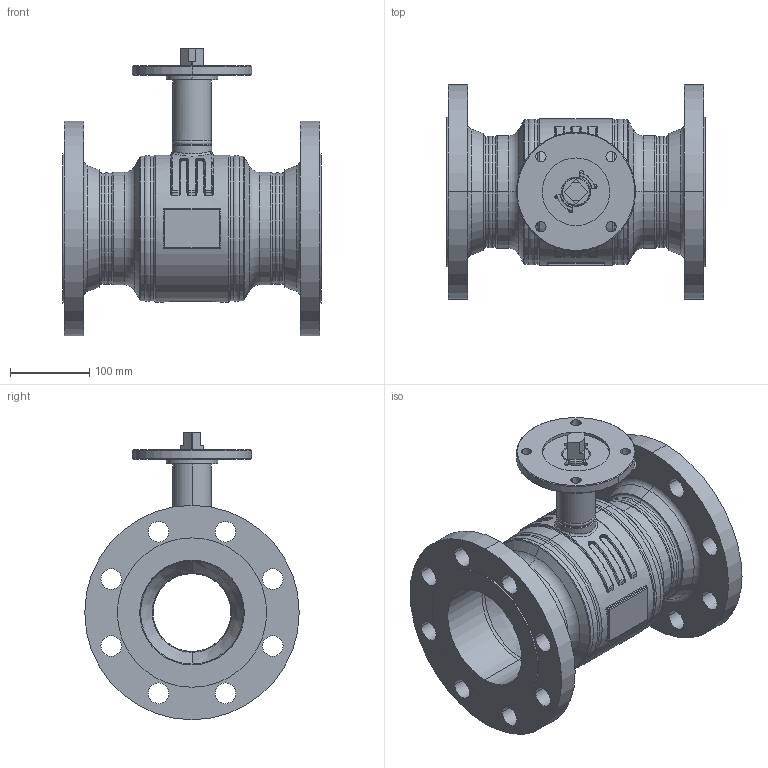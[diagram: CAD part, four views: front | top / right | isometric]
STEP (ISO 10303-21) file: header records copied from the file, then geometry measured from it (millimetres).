
FILE_DESCRIPTION((''),'2;1');
FILE_NAME('KHMO-F-R-H-125R100P04_SW0001','2025-04-23T09:38:29',('jeitlers'),('KLINGER'),'CREO PARAMETRIC BY PTC INC, 2023014','CREO PARAMETRIC BY PTC INC, 2023014','');
FILE_SCHEMA(('CONFIG_CONTROL_DESIGN'));
Length unit declared in the file: millimetre
Products named in the file (1): KHMO-F-R-H-125R100P04_SW0001
Bounding box: 325 x 270 x 362 mm (x, y, z)
Volume: 4430599.7 mm3; surface area: 843992.3 mm2
Topology: 2 solids, 2 shells, 604 faces, 1451 edges, 866 vertices
Faces by surface type: cylinder 230, torus 124, plane 108, cone 82, bspline 52, sphere 8
Entity records: 29838 total; most frequent: CARTESIAN_POINT 15624, DIRECTION 3167, ORIENTED_EDGE 2886, EDGE_CURVE 1443, AXIS2_PLACEMENT_3D 1346, VERTEX_POINT 866, CIRCLE 794, EDGE_LOOP 687
